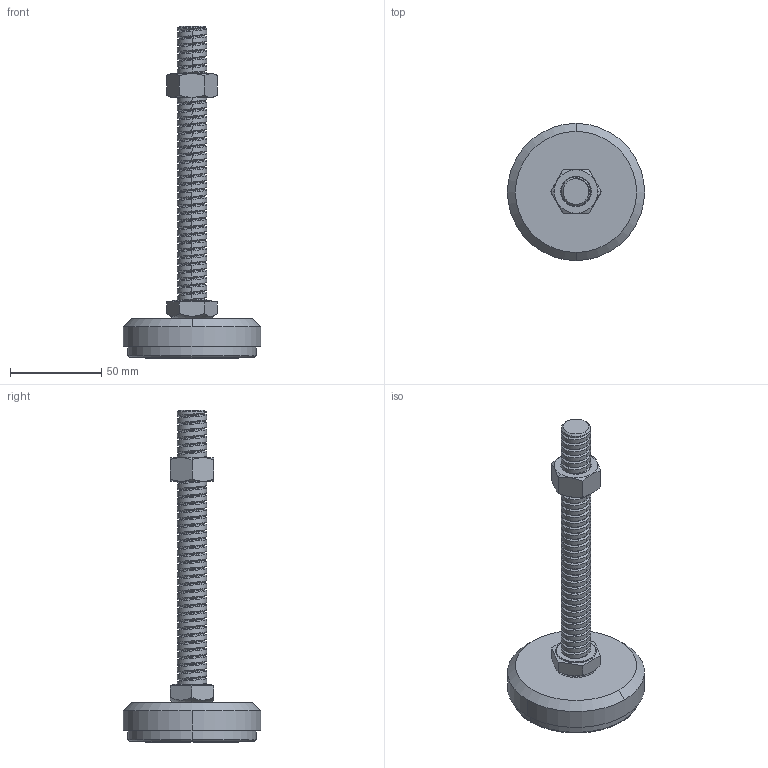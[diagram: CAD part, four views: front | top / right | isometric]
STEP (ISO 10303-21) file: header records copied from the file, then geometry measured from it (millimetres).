
FILE_DESCRIPTION (( 'STEP AP203' ), '1' );
FILE_NAME ('F-102-2-805-150.STEP', '2015-11-24T02:01:09', ( '' ), ( '' ), 'SwSTEP 2.0', 'SolidWorks 2014', '' );
FILE_SCHEMA (( 'CONFIG_CONTROL_DESIGN' ));
Length unit declared in the file: millimetre
Products named in the file (5): M16螺帽-5; DT-M16X150L-10調整螺絲; DK-08-75鐵蓋-M16; F-102-2-805-150; 75橡膠墊
Assembly tree (4 placements, depth 2):
  F-102-2-805-150
    75橡膠墊
    M16螺帽-5
    DT-M16X150L-10調整螺絲
    DK-08-75鐵蓋-M16
Bounding box: 75 x 75 x 181.5 mm (x, y, z)
Volume: 115114.3 mm3; surface area: 38809.1 mm2
Topology: 4 solids, 4 shells, 208 faces, 516 edges, 328 vertices
Faces by surface type: cylinder 101, cone 47, plane 33, bspline 25, torus 2
Entity records: 16520 total; most frequent: CARTESIAN_POINT 11742, ORIENTED_EDGE 1032, DIRECTION 770, EDGE_CURVE 516, VERTEX_POINT 328, AXIS2_PLACEMENT_3D 305, EDGE_LOOP 224, FACE_OUTER_BOUND 208
